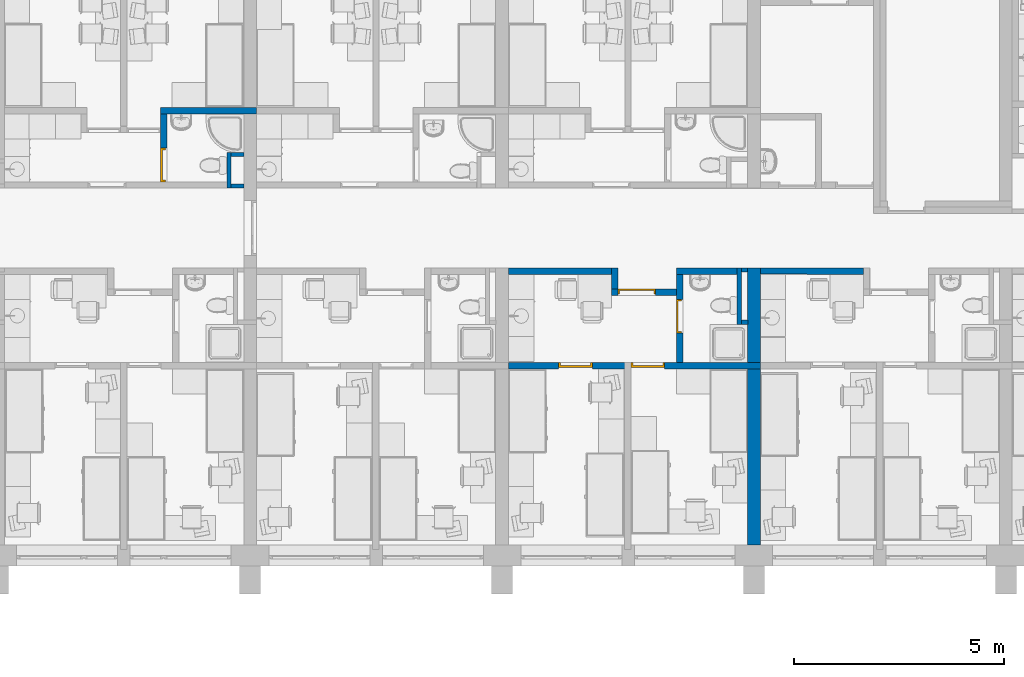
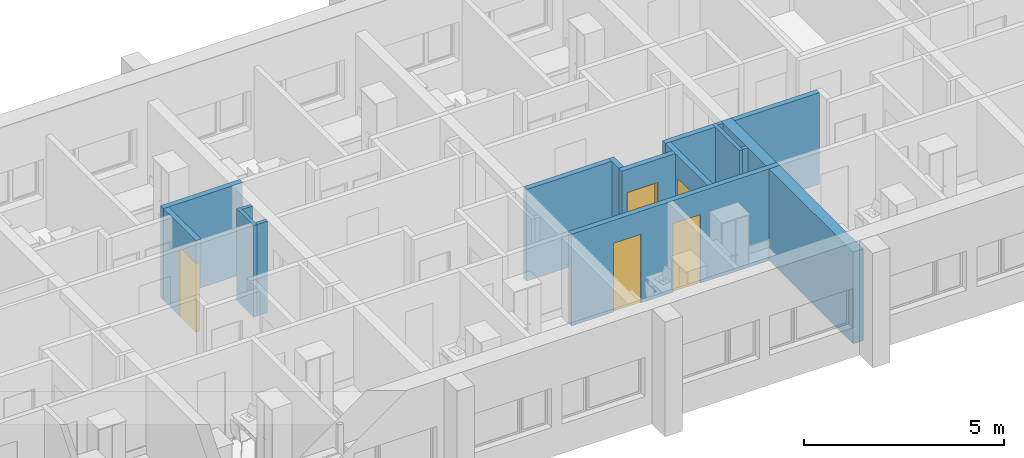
# One storey, part 7 of 152: 16 walls, 5 doors, 5 openings.
"""IFC2X3 building model written with IfcOpenShell, lengths in millimetres."""

from ifc_helpers import new_model, entity, si_unit, converted_unit, money_unit, direction, frame, origin_with_axes, place, context, subcontext, project, spatial, polyline, outline, extrude, faceted_brep, source, transform, mapped, material, material_list, layer, layer_set, layer_usage, type_object, element, fill, save


model = new_model("IFC2X3")

# Units and contexts
model_context = context("Model", 3, precision=1e-05, world=origin_with_axes(), true_north=direction((0.0, 1.0)))
body_context = subcontext(model_context, "Body", "Model", "MODEL_VIEW")
ifc_project = project(units=[si_unit("LENGTHUNIT", "METRE", prefix="MILLI"), si_unit("AREAUNIT", "SQUARE_METRE"), si_unit("VOLUMEUNIT", "CUBIC_METRE"), converted_unit("PLANEANGLEUNIT", "DEGREE", entity("IfcPlaneAngleMeasure", 0.0174532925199), si_unit("PLANEANGLEUNIT", "RADIAN"), dimensions=[0, 0, 0, 0, 0, 0, 0]), si_unit("SOLIDANGLEUNIT", "STERADIAN"), money_unit("USD"), converted_unit("TIMEUNIT", "Year", entity("IfcTimeMeasure", 31556926.0), si_unit("TIMEUNIT", "SECOND"), dimensions=[0, 0, 0, 0, 0, 0, 0]), si_unit("MASSUNIT", "GRAM"), si_unit("THERMODYNAMICTEMPERATUREUNIT", "DEGREE_CELSIUS"), si_unit("LUMINOUSINTENSITYUNIT", "LUMEN")], contexts=[model_context])

# Site, building, storey
site_placement = place(None, origin_with_axes())
site = spatial("IfcSite", under=ifc_project, at=site_placement, Name="Site", CompositionType="ELEMENT")
building_placement = place(site_placement, origin_with_axes())
building = spatial("IfcBuilding", under=site, at=building_placement, Name="Building", CompositionType="ELEMENT")
storey_placement = place(building_placement, frame((0.0, 0.0, 9500.0), z_axis=(0.0, 0.0, 1.0), x_axis=(1.0, 0.0, 0.0)))
storey = spatial("IfcBuildingStorey", under=building, at=storey_placement, Name="5KORRUS", CompositionType="ELEMENT", Elevation=9500.0)

# Wall, opening, door
ifc_material_1 = material(Name="UmbKipsplaat")
ifc_layer_1 = layer(ifc_material_1, 13.0, ventilated="UNKNOWN")
ifc_layer_2 = layer(ifc_material_1, 13.0, ventilated="UNKNOWN")
ifc_material_2 = material(Name="SOOJUSTUS MINERAALVILL")
ifc_layer_3 = layer(ifc_material_2, 98.0, ventilated="UNKNOWN")
ifc_layer_4 = layer(ifc_material_1, 13.0, ventilated="UNKNOWN")
ifc_layer_5 = layer(ifc_material_1, 13.0, ventilated="UNKNOWN")
ifc_layer_set_1 = layer_set([ifc_layer_1, ifc_layer_2, ifc_layer_3, ifc_layer_4, ifc_layer_5], Name="kipssein150")
ifc_layer_usage_1 = layer_usage(ifc_layer_set_1, "AXIS2", "POSITIVE", 0.0)
wall_type_1 = type_object("IfcWallType", Name="kipssein150 150", PredefinedType="NOTDEFINED")
wall_1_placement = place(storey_placement, frame((-38271.5850987, -9367.37850445, 0.0), z_axis=(0.0, 0.0, 1.0), x_axis=(0.0, -1.0, 0.0)))
wall_1 = element("IfcWallStandardCase", 1, at=wall_1_placement, inside=storey, type_object=wall_type_1, material=ifc_layer_usage_1, Name="SS1", ObjectType="SS1", context=body_context, shape_type="SweptSolid", body=[
    extrude(outline(polyline([(0.0, 0.0), (1619.22560435, 0.0), (1619.22560435, 150.0), (0.0, 150.0), (0.0, 0.0)])), origin_with_axes(), (0.0, 0.0, 1.0), 2800.0),
])
opening_1_placement = place(wall_1_placement, frame((1219.22560435, 0.0, 0.0), z_axis=(0.0, 0.0, 1.0), x_axis=(1.0, 0.0, 0.0)))
opening_1 = element("IfcOpeningElement", 2, at=opening_1_placement, cuts=wall_1, Name="SU3-3", context=body_context, shape_type="SweptSolid", body=[
    extrude(outline(polyline([(-400.0, -2100.0), (400.0, -2100.0), (400.0, 0.0), (-400.0, 0.0), (-400.0, -2100.0)])), frame((0.0, 150.0, 0.0), z_axis=(0.0, 1.0, 0.0), x_axis=(1.0, 0.0, 0.0)), (0.0, 0.0, -1.0), 450.0),
])
ifc_material_3 = material(Name="Background")
ifc_material_list = material_list([ifc_material_3])
door_style_1 = type_object("IfcDoorStyle", Name="Door 19", ConstructionType="NOTDEFINED", OperationType="SINGLE_SWING_LEFT", ParameterTakesPrecedence=False, Sizeable=False)
shared_shape_1 = source(origin_with_axes(), body_context, "Body", "Brep", [
    faceted_brep([(360.0, -40.0, 0.0), (360.0, -115.0, 0.0), (360.0, -115.0, 2060.0), (360.0, -40.0, 2060.0), (372.0, -40.0, 0.0), (372.0, 0.0, 0.0), (400.0, 0.0, 0.0), (400.0, -115.0, 0.0), (400.0, -115.0, 2060.0), (372.0, -40.0, 2060.0), (400.0, 0.0, 2060.0), (372.0, 0.0, 2060.0)], [[[0, 1, 2, 3]], [[4, 5, 6, 7, 1, 0]], [[2, 1, 7, 8]], [[9, 3, 2, 8, 10, 11]], [[9, 4, 0, 3]], [[11, 5, 4, 9]], [[11, 10, 6, 5]], [[7, 6, 10, 8]]]),
    faceted_brep([(-372.0, -40.0, 2060.0), (-372.0, 0.0, 2060.0), (-400.0, 0.0, 2060.0), (-400.0, -115.0, 2060.0), (-360.0, -115.0, 2060.0), (-360.0, -40.0, 2060.0), (-372.0, -40.0, 0.0), (-372.0, 0.0, 0.0), (-400.0, 0.0, 0.0), (-400.0, -115.0, 0.0), (-360.0, -115.0, 0.0), (-360.0, -40.0, 0.0)], [[[0, 1, 2, 3, 4, 5]], [[0, 6, 7, 1]], [[7, 8, 2, 1]], [[3, 2, 8, 9]], [[4, 3, 9, 10]], [[5, 4, 10, 11]], [[5, 11, 6, 0]], [[6, 11, 10, 9, 8, 7]]]),
    faceted_brep([(372.0, 0.0, 2072.0), (-372.0, 0.0, 2072.0), (-372.0, 0.0, 2060.0), (-400.0, 0.0, 2060.0), (-400.0, 0.0, 2100.0), (400.0, 0.0, 2100.0), (400.0, 0.0, 2060.0), (372.0, 0.0, 2060.0), (372.0, -40.0, 2072.0), (-372.0, -40.0, 2072.0), (-372.0, -40.0, 2060.0), (-360.0, -40.0, 2060.0), (-360.0, -115.0, 2060.0), (-400.0, -115.0, 2060.0), (-400.0, -115.0, 2100.0), (400.0, -115.0, 2100.0), (400.0, -115.0, 2060.0), (372.0, -40.0, 2060.0), (360.0, -115.0, 2060.0), (360.0, -40.0, 2060.0)], [[[0, 1, 2, 3, 4, 5, 6, 7]], [[0, 8, 9, 1]], [[1, 9, 10, 2]], [[10, 11, 12, 13, 3, 2]], [[14, 4, 3, 13]], [[15, 5, 4, 14]], [[16, 6, 5, 15]], [[17, 7, 6, 16, 18, 19]], [[7, 17, 8, 0]], [[10, 9, 8, 17, 19, 11]], [[19, 18, 12, 11]], [[13, 12, 18, 16, 15, 14]]]),
    faceted_brep([(-372.0, 0.0, 0.0), (372.0, 0.0, 0.0), (372.0, -40.0, 0.0), (-372.0, -40.0, 0.0), (-372.0, 0.0, 2072.0), (372.0, 0.0, 2072.0), (372.0, -40.0, 2072.0), (-372.0, -40.0, 2072.0)], [[[0, 1, 2, 3]], [[0, 4, 5, 1]], [[1, 5, 6, 2]], [[3, 2, 6, 7]], [[4, 0, 3, 7]], [[5, 4, 7, 6]]]),
])
door_1_placement = place(opening_1_placement, frame((400.0, 0.0, 0.0), z_axis=(0.0, 0.0, 1.0), x_axis=(-1.0, 0.0, 0.0)))
door_1 = element("IfcDoor", 3, at=door_1_placement, inside=storey, type_object=door_style_1, material=ifc_material_list, Name="SU3-3", ObjectType="WC-uks", OverallHeight=2100.0, OverallWidth=800.0, context=body_context, shape_type="MappedRepresentation", body=[
    mapped(shared_shape_1, transform((400.0, 0.0, 0.0))),
])
fill(opening_1, door_1)

# Walls
ifc_layer_usage_2 = layer_usage(ifc_layer_set_1, "AXIS2", "POSITIVE", 0.0)
wall_2_placement = place(storey_placement, frame((-38271.5850987, -9367.37850445, 0.0), z_axis=(0.0, 0.0, 1.0), x_axis=(1.0, 0.0, 0.0)))
element("IfcWallStandardCase", 4, at=wall_2_placement, inside=storey, type_object=wall_type_1, material=ifc_layer_usage_2, Name="SS1", ObjectType="SS1", context=body_context, shape_type="SweptSolid", body=[
    extrude(outline(polyline([(0.0, 0.0), (2281.28839536, 0.0), (2281.28839536, 150.0), (0.0, 150.0), (0.0, 0.0)])), origin_with_axes(), (0.0, 0.0, 1.0), 2800.0),
])
ifc_layer_usage_3 = layer_usage(ifc_layer_set_1, "AXIS2", "POSITIVE", -150.0)
wall_3_placement = place(storey_placement, frame((-25984.201689, -13039.3705726, 0.0), z_axis=(0.0, 0.0, 1.0), x_axis=(1.0, 0.0, 0.0)))
element("IfcWallStandardCase", 5, at=wall_3_placement, inside=storey, type_object=wall_type_1, material=ifc_layer_usage_3, Name="SS1", ObjectType="SS1", context=body_context, shape_type="SweptSolid", body=[
    extrude(outline(polyline([(0.0, -150.0), (1450.19338105, -150.0), (1450.19338105, 0.0), (0.0, 0.0), (0.0, -150.0)])), origin_with_axes(), (0.0, 0.0, 1.0), 2800.0),
])

# Wall, openings, doors
ifc_layer_usage_4 = layer_usage(ifc_layer_set_1, "AXIS2", "POSITIVE", -150.0)
wall_4_placement = place(storey_placement, frame((-23990.2967033, -15439.2398994, 0.0), z_axis=(0.0, 0.0, 1.0), x_axis=(-1.0, 0.0, 0.0)))
wall_4 = element("IfcWallStandardCase", 6, at=wall_4_placement, inside=storey, type_object=wall_type_1, material=ifc_layer_usage_4, Name="SS1", ObjectType="SS1", context=body_context, shape_type="SweptSolid", body=[
    extrude(outline(polyline([(0.0, -150.0), (6000.0, -150.0), (6000.0, 0.0), (0.0, 0.0), (0.0, -150.0)])), origin_with_axes(), (0.0, 0.0, 1.0), 2800.0),
])
opening_2_placement = place(wall_4_placement, frame((4400.0, 0.0, 0.0), z_axis=(0.0, 0.0, 1.0), x_axis=(1.0, 0.0, 0.0)))
opening_2 = element("IfcOpeningElement", 7, at=opening_2_placement, cuts=wall_4, Name="SU3-5", context=body_context, shape_type="SweptSolid", body=[
    extrude(outline(polyline([(-400.0, 0.0), (400.0, 0.0), (400.0, 2100.0), (-400.0, 2100.0), (-400.0, 0.0)])), frame((0.0, 150.0, 0.0), z_axis=(0.0, 1.0, 0.0), x_axis=(-1.0, 0.0, 0.0)), (0.0, 0.0, -1.0), 450.0),
])
opening_3_placement = place(wall_4_placement, frame((2675.0, 0.0, 0.0), z_axis=(0.0, 0.0, 1.0), x_axis=(1.0, 0.0, 0.0)))
opening_3 = element("IfcOpeningElement", 8, at=opening_3_placement, cuts=wall_4, Name="SU3-4", context=body_context, shape_type="SweptSolid", body=[
    extrude(outline(polyline([(-400.0, 0.0), (400.0, 0.0), (400.0, 2100.0), (-400.0, 2100.0), (-400.0, 0.0)])), frame((0.0, 150.0, 0.0), z_axis=(0.0, -1.0, 0.0), x_axis=(1.0, 0.0, 0.0)), (0.0, 0.0, 1.0), 450.0),
])
door_style_2 = type_object("IfcDoorStyle", Name="Door 19", ConstructionType="NOTDEFINED", OperationType="SINGLE_SWING_LEFT", ParameterTakesPrecedence=False, Sizeable=False)
shared_shape_2 = source(origin_with_axes(), body_context, "Body", "Brep", [
    faceted_brep([(360.0, -75.0, 0.0), (360.0, -150.0, 0.0), (360.0, -150.0, 2060.0), (360.0, -75.0, 2060.0), (372.0, -75.0, 0.0), (372.0, -35.0, 0.0), (400.0, -35.0, 0.0), (400.0, -150.0, 0.0), (400.0, -150.0, 2060.0), (372.0, -75.0, 2060.0), (400.0, -35.0, 2060.0), (372.0, -35.0, 2060.0)], [[[0, 1, 2, 3]], [[4, 5, 6, 7, 1, 0]], [[2, 1, 7, 8]], [[9, 3, 2, 8, 10, 11]], [[9, 4, 0, 3]], [[11, 5, 4, 9]], [[11, 10, 6, 5]], [[7, 6, 10, 8]]]),
    faceted_brep([(-372.0, -75.0, 2060.0), (-372.0, -35.0, 2060.0), (-400.0, -35.0, 2060.0), (-400.0, -150.0, 2060.0), (-360.0, -150.0, 2060.0), (-360.0, -75.0, 2060.0), (-372.0, -75.0, 0.0), (-372.0, -35.0, 0.0), (-400.0, -35.0, 0.0), (-400.0, -150.0, 0.0), (-360.0, -150.0, 0.0), (-360.0, -75.0, 0.0)], [[[0, 1, 2, 3, 4, 5]], [[0, 6, 7, 1]], [[7, 8, 2, 1]], [[3, 2, 8, 9]], [[4, 3, 9, 10]], [[5, 4, 10, 11]], [[5, 11, 6, 0]], [[6, 11, 10, 9, 8, 7]]]),
    faceted_brep([(372.0, -35.0, 2072.0), (-372.0, -35.0, 2072.0), (-372.0, -35.0, 2060.0), (-400.0, -35.0, 2060.0), (-400.0, -35.0, 2100.0), (400.0, -35.0, 2100.0), (400.0, -35.0, 2060.0), (372.0, -35.0, 2060.0), (372.0, -75.0, 2072.0), (-372.0, -75.0, 2072.0), (-372.0, -75.0, 2060.0), (-360.0, -75.0, 2060.0), (-360.0, -150.0, 2060.0), (-400.0, -150.0, 2060.0), (-400.0, -150.0, 2100.0), (400.0, -150.0, 2100.0), (400.0, -150.0, 2060.0), (372.0, -75.0, 2060.0), (360.0, -150.0, 2060.0), (360.0, -75.0, 2060.0)], [[[0, 1, 2, 3, 4, 5, 6, 7]], [[0, 8, 9, 1]], [[1, 9, 10, 2]], [[10, 11, 12, 13, 3, 2]], [[14, 4, 3, 13]], [[15, 5, 4, 14]], [[16, 6, 5, 15]], [[17, 7, 6, 16, 18, 19]], [[7, 17, 8, 0]], [[10, 9, 8, 17, 19, 11]], [[19, 18, 12, 11]], [[13, 12, 18, 16, 15, 14]]]),
    faceted_brep([(-372.0, -35.0, 0.0), (372.0, -35.0, 0.0), (372.0, -75.0, 0.0), (-372.0, -75.0, 0.0), (-372.0, -35.0, 2072.0), (372.0, -35.0, 2072.0), (372.0, -75.0, 2072.0), (-372.0, -75.0, 2072.0)], [[[0, 1, 2, 3]], [[0, 4, 5, 1]], [[1, 5, 6, 2]], [[3, 2, 6, 7]], [[4, 0, 3, 7]], [[5, 4, 7, 6]]]),
])
door_2_placement = place(opening_2_placement, frame((-400.0, 0.0, 0.0), z_axis=(0.0, 0.0, 1.0), x_axis=(1.0, 0.0, 0.0)))
door_2 = element("IfcDoor", 9, at=door_2_placement, inside=storey, type_object=door_style_2, material=ifc_material_list, Name="SU3-5", ObjectType="Toa uks", OverallHeight=2100.0, OverallWidth=800.0, context=body_context, shape_type="MappedRepresentation", body=[
    mapped(shared_shape_2, transform((400.0, 0.0, 0.0))),
])
fill(opening_2, door_2)
door_style_3 = type_object("IfcDoorStyle", Name="Door 19", ConstructionType="NOTDEFINED", OperationType="SINGLE_SWING_RIGHT", ParameterTakesPrecedence=False, Sizeable=False)
shared_shape_3 = source(origin_with_axes(), body_context, "Body", "Brep", [
    faceted_brep([(-360.0, -75.0, 0.0), (-360.0, -75.0, 2060.0), (-360.0, -150.0, 2060.0), (-360.0, -150.0, 0.0), (-372.0, -75.0, 2060.0), (-372.0, -75.0, 0.0), (-372.0, -35.0, 2060.0), (-400.0, -35.0, 2060.0), (-400.0, -150.0, 2060.0), (-400.0, -150.0, 0.0), (-400.0, -35.0, 0.0), (-372.0, -35.0, 0.0)], [[[0, 1, 2, 3]], [[4, 1, 0, 5]], [[4, 6, 7, 8, 2, 1]], [[2, 8, 9, 3]], [[5, 0, 3, 9, 10, 11]], [[6, 4, 5, 11]], [[6, 11, 10, 7]], [[9, 8, 7, 10]]]),
    faceted_brep([(372.0, -75.0, 2060.0), (360.0, -75.0, 2060.0), (360.0, -150.0, 2060.0), (400.0, -150.0, 2060.0), (400.0, -35.0, 2060.0), (372.0, -35.0, 2060.0), (372.0, -75.0, 0.0), (360.0, -75.0, 0.0), (360.0, -150.0, 0.0), (400.0, -150.0, 0.0), (400.0, -35.0, 0.0), (372.0, -35.0, 0.0)], [[[0, 1, 2, 3, 4, 5]], [[1, 0, 6, 7]], [[1, 7, 8, 2]], [[2, 8, 9, 3]], [[3, 9, 10, 4]], [[11, 5, 4, 10]], [[0, 5, 11, 6]], [[6, 11, 10, 9, 8, 7]]]),
    faceted_brep([(-372.0, -35.0, 2072.0), (-372.0, -35.0, 2060.0), (-400.0, -35.0, 2060.0), (-400.0, -35.0, 2100.0), (400.0, -35.0, 2100.0), (400.0, -35.0, 2060.0), (372.0, -35.0, 2060.0), (372.0, -35.0, 2072.0), (-372.0, -75.0, 2072.0), (-372.0, -75.0, 2060.0), (-360.0, -75.0, 2060.0), (-360.0, -150.0, 2060.0), (-400.0, -150.0, 2060.0), (-400.0, -150.0, 2100.0), (400.0, -150.0, 2100.0), (400.0, -150.0, 2060.0), (372.0, -75.0, 2060.0), (360.0, -150.0, 2060.0), (360.0, -75.0, 2060.0), (372.0, -75.0, 2072.0)], [[[0, 1, 2, 3, 4, 5, 6, 7]], [[1, 0, 8, 9]], [[9, 10, 11, 12, 2, 1]], [[12, 13, 3, 2]], [[13, 14, 4, 3]], [[14, 15, 5, 4]], [[16, 6, 5, 15, 17, 18]], [[7, 6, 16, 19]], [[0, 7, 19, 8]], [[16, 18, 10, 9, 8, 19]], [[10, 18, 17, 11]], [[15, 14, 13, 12, 11, 17]]]),
    faceted_brep([(372.0, -35.0, 0.0), (372.0, -75.0, 0.0), (-372.0, -75.0, 0.0), (-372.0, -35.0, 0.0), (372.0, -35.0, 2072.0), (372.0, -75.0, 2072.0), (-372.0, -75.0, 2072.0), (-372.0, -35.0, 2072.0)], [[[0, 1, 2, 3]], [[4, 5, 1, 0]], [[1, 5, 6, 2]], [[3, 2, 6, 7]], [[0, 3, 7, 4]], [[7, 6, 5, 4]]]),
])
door_3_placement = place(opening_3_placement, frame((-400.0, 0.0, 0.0), z_axis=(0.0, 0.0, 1.0), x_axis=(1.0, 0.0, 0.0)))
door_3 = element("IfcDoor", 10, at=door_3_placement, inside=storey, type_object=door_style_3, material=ifc_material_list, Name="SU3-4", ObjectType="Toa uks", OverallHeight=2100.0, OverallWidth=800.0, context=body_context, shape_type="MappedRepresentation", body=[
    mapped(shared_shape_3, transform((400.0, 0.0, 0.0))),
])
fill(opening_3, door_3)

# Wall, opening, door
ifc_layer_usage_5 = layer_usage(ifc_layer_set_1, "AXIS2", "POSITIVE", -150.0)
wall_5_placement = place(storey_placement, frame((-25984.201689, -15286.1174598, 0.0), z_axis=(0.0, 0.0, 1.0), x_axis=(0.0, 1.0, 0.0)))
wall_5 = element("IfcWallStandardCase", 11, at=wall_5_placement, inside=storey, type_object=wall_type_1, material=ifc_layer_usage_5, Name="SS1", ObjectType="SS1", context=body_context, shape_type="SweptSolid", body=[
    extrude(outline(polyline([(0.0, -150.0), (2246.74688721, -150.0), (2246.74688721, 0.0), (0.0, 0.0), (0.0, -150.0)])), origin_with_axes(), (0.0, 0.0, 1.0), 2800.0),
])
opening_4_placement = place(wall_5_placement, frame((1096.66505151, 0.0, 0.0), z_axis=(0.0, 0.0, 1.0), x_axis=(1.0, 0.0, 0.0)))
opening_4 = element("IfcOpeningElement", 12, at=opening_4_placement, cuts=wall_5, Name="SU3-2", context=body_context, shape_type="SweptSolid", body=[
    extrude(outline(polyline([(-400.0, -2100.0), (400.0, -2100.0), (400.0, 0.0), (-400.0, 0.0), (-400.0, -2100.0)])), frame((0.0, -150.0, 0.0), z_axis=(0.0, 1.0, 0.0), x_axis=(1.0, 0.0, 0.0)), (0.0, 0.0, 1.0), 450.0),
])
door_style_4 = type_object("IfcDoorStyle", Name="Door 19", ConstructionType="NOTDEFINED", OperationType="SINGLE_SWING_RIGHT", ParameterTakesPrecedence=False, Sizeable=False)
shared_shape_4 = source(origin_with_axes(), body_context, "Body", "Brep", [
    faceted_brep([(-360.0, -40.0, 0.0), (-360.0, -40.0, 2060.0), (-360.0, -115.0, 2060.0), (-360.0, -115.0, 0.0), (-372.0, -40.0, 2060.0), (-372.0, -40.0, 0.0), (-372.0, 0.0, 2060.0), (-400.0, 0.0, 2060.0), (-400.0, -115.0, 2060.0), (-400.0, -115.0, 0.0), (-400.0, 0.0, 0.0), (-372.0, 0.0, 0.0)], [[[0, 1, 2, 3]], [[4, 1, 0, 5]], [[4, 6, 7, 8, 2, 1]], [[2, 8, 9, 3]], [[5, 0, 3, 9, 10, 11]], [[6, 4, 5, 11]], [[6, 11, 10, 7]], [[9, 8, 7, 10]]]),
    faceted_brep([(372.0, -40.0, 2060.0), (360.0, -40.0, 2060.0), (360.0, -115.0, 2060.0), (400.0, -115.0, 2060.0), (400.0, 0.0, 2060.0), (372.0, 0.0, 2060.0), (372.0, -40.0, 0.0), (360.0, -40.0, 0.0), (360.0, -115.0, 0.0), (400.0, -115.0, 0.0), (400.0, 0.0, 0.0), (372.0, 0.0, 0.0)], [[[0, 1, 2, 3, 4, 5]], [[1, 0, 6, 7]], [[1, 7, 8, 2]], [[2, 8, 9, 3]], [[3, 9, 10, 4]], [[11, 5, 4, 10]], [[0, 5, 11, 6]], [[6, 11, 10, 9, 8, 7]]]),
    faceted_brep([(-372.0, 0.0, 2072.0), (-372.0, 0.0, 2060.0), (-400.0, 0.0, 2060.0), (-400.0, 0.0, 2100.0), (400.0, 0.0, 2100.0), (400.0, 0.0, 2060.0), (372.0, 0.0, 2060.0), (372.0, 0.0, 2072.0), (-372.0, -40.0, 2072.0), (-372.0, -40.0, 2060.0), (-360.0, -40.0, 2060.0), (-360.0, -115.0, 2060.0), (-400.0, -115.0, 2060.0), (-400.0, -115.0, 2100.0), (400.0, -115.0, 2100.0), (400.0, -115.0, 2060.0), (372.0, -40.0, 2060.0), (360.0, -115.0, 2060.0), (360.0, -40.0, 2060.0), (372.0, -40.0, 2072.0)], [[[0, 1, 2, 3, 4, 5, 6, 7]], [[1, 0, 8, 9]], [[9, 10, 11, 12, 2, 1]], [[12, 13, 3, 2]], [[13, 14, 4, 3]], [[14, 15, 5, 4]], [[16, 6, 5, 15, 17, 18]], [[7, 6, 16, 19]], [[0, 7, 19, 8]], [[16, 18, 10, 9, 8, 19]], [[10, 18, 17, 11]], [[15, 14, 13, 12, 11, 17]]]),
    faceted_brep([(372.0, 0.0, 0.0), (372.0, -40.0, 0.0), (-372.0, -40.0, 0.0), (-372.0, 0.0, 0.0), (372.0, 0.0, 2072.0), (372.0, -40.0, 2072.0), (-372.0, -40.0, 2072.0), (-372.0, 0.0, 2072.0)], [[[0, 1, 2, 3]], [[4, 5, 1, 0]], [[1, 5, 6, 2]], [[3, 2, 6, 7]], [[0, 3, 7, 4]], [[7, 6, 5, 4]]]),
])
door_4_placement = place(opening_4_placement, frame((-400.0, 0.0, 0.0), z_axis=(0.0, 0.0, 1.0), x_axis=(1.0, 0.0, 0.0)))
door_4 = element("IfcDoor", 13, at=door_4_placement, inside=storey, type_object=door_style_4, material=ifc_material_list, Name="SU3-2", ObjectType="WC-uks", OverallHeight=2100.0, OverallWidth=800.0, context=body_context, shape_type="MappedRepresentation", body=[
    mapped(shared_shape_4, transform((400.0, 0.0, 0.0))),
])
fill(opening_4, door_4)

ifc_layer_usage_6 = layer_usage(ifc_layer_set_1, "AXIS2", "POSITIVE", 0.0)
wall_6_placement = place(storey_placement, frame((-25984.201689, -13539.4524083, 0.0), z_axis=(0.0, 0.0, 1.0), x_axis=(-1.0, 0.0, 0.0)))
wall_6 = element("IfcWallStandardCase", 14, at=wall_6_placement, inside=storey, type_object=wall_type_1, material=ifc_layer_usage_6, Name="SS1", ObjectType="SS1", context=body_context, shape_type="SweptSolid", body=[
    extrude(outline(polyline([(0.0, 0.0), (1549.66067938, 0.0), (1549.66067938, 150.0), (0.0, 150.0), (0.0, 0.0)])), origin_with_axes(), (0.0, 0.0, 1.0), 2800.0),
])
opening_5_placement = place(wall_6_placement, frame((949.660679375, 0.0, 0.0), z_axis=(0.0, 0.0, 1.0), x_axis=(1.0, 0.0, 0.0)))
opening_5 = element("IfcOpeningElement", 15, at=opening_5_placement, cuts=wall_6, Name="SU2-6", context=body_context, shape_type="SweptSolid", body=[
    extrude(outline(polyline([(-450.0, -2100.0), (450.0, -2100.0), (450.0, 0.0), (-450.0, 0.0), (-450.0, -2100.0)])), frame((0.0, 150.0, 0.0), z_axis=(0.0, 1.0, 0.0), x_axis=(1.0, 0.0, 0.0)), (0.0, 0.0, -1.0), 450.0),
])
shared_shape_5 = source(origin_with_axes(), body_context, "Body", "Brep", [
    faceted_brep([(410.0, -40.0, 0.0), (410.0, -115.0, 0.0), (410.0, -115.0, 2060.0), (410.0, -40.0, 2060.0), (422.0, -40.0, 0.0), (422.0, 0.0, 0.0), (450.0, 0.0, 0.0), (450.0, -115.0, 0.0), (450.0, -115.0, 2060.0), (422.0, -40.0, 2060.0), (450.0, 0.0, 2060.0), (422.0, 0.0, 2060.0)], [[[0, 1, 2, 3]], [[4, 5, 6, 7, 1, 0]], [[2, 1, 7, 8]], [[9, 3, 2, 8, 10, 11]], [[9, 4, 0, 3]], [[11, 5, 4, 9]], [[11, 10, 6, 5]], [[7, 6, 10, 8]]]),
    faceted_brep([(-422.0, -40.0, 2060.0), (-422.0, 0.0, 2060.0), (-450.0, 0.0, 2060.0), (-450.0, -115.0, 2060.0), (-410.0, -115.0, 2060.0), (-410.0, -40.0, 2060.0), (-422.0, -40.0, 0.0), (-422.0, 0.0, 0.0), (-450.0, 0.0, 0.0), (-450.0, -115.0, 0.0), (-410.0, -115.0, 0.0), (-410.0, -40.0, 0.0)], [[[0, 1, 2, 3, 4, 5]], [[0, 6, 7, 1]], [[7, 8, 2, 1]], [[3, 2, 8, 9]], [[4, 3, 9, 10]], [[5, 4, 10, 11]], [[5, 11, 6, 0]], [[6, 11, 10, 9, 8, 7]]]),
    faceted_brep([(422.0, 0.0, 2072.0), (-422.0, 0.0, 2072.0), (-422.0, 0.0, 2060.0), (-450.0, 0.0, 2060.0), (-450.0, 0.0, 2100.0), (450.0, 0.0, 2100.0), (450.0, 0.0, 2060.0), (422.0, 0.0, 2060.0), (422.0, -40.0, 2072.0), (-422.0, -40.0, 2072.0), (-422.0, -40.0, 2060.0), (-410.0, -40.0, 2060.0), (-410.0, -115.0, 2060.0), (-450.0, -115.0, 2060.0), (-450.0, -115.0, 2100.0), (450.0, -115.0, 2100.0), (450.0, -115.0, 2060.0), (422.0, -40.0, 2060.0), (410.0, -115.0, 2060.0), (410.0, -40.0, 2060.0)], [[[0, 1, 2, 3, 4, 5, 6, 7]], [[0, 8, 9, 1]], [[1, 9, 10, 2]], [[10, 11, 12, 13, 3, 2]], [[14, 4, 3, 13]], [[15, 5, 4, 14]], [[16, 6, 5, 15]], [[17, 7, 6, 16, 18, 19]], [[7, 17, 8, 0]], [[10, 9, 8, 17, 19, 11]], [[19, 18, 12, 11]], [[13, 12, 18, 16, 15, 14]]]),
    faceted_brep([(-422.0, 0.0, 0.0), (422.0, 0.0, 0.0), (422.0, -40.0, 0.0), (-422.0, -40.0, 0.0), (-422.0, 0.0, 2072.0), (422.0, 0.0, 2072.0), (422.0, -40.0, 2072.0), (-422.0, -40.0, 2072.0)], [[[0, 1, 2, 3]], [[0, 4, 5, 1]], [[1, 5, 6, 2]], [[3, 2, 6, 7]], [[4, 0, 3, 7]], [[5, 4, 7, 6]]]),
])
door_5_placement = place(opening_5_placement, frame((450.0, 0.0, 0.0), z_axis=(0.0, 0.0, 1.0), x_axis=(-1.0, 0.0, 0.0)))
door_5 = element("IfcDoor", 16, at=door_5_placement, inside=storey, type_object=door_style_1, material=ifc_material_list, Name="SU2-6", ObjectType="Korteri välisuks", OverallHeight=2100.0, OverallWidth=900.0, context=body_context, shape_type="MappedRepresentation", body=[
    mapped(shared_shape_5, transform((450.0, 0.0, 0.0))),
])
fill(opening_5, door_5)

# Walls
ifc_layer_usage_7 = layer_usage(ifc_layer_set_1, "AXIS2", "POSITIVE", 0.0)
wall_7_placement = place(storey_placement, frame((-27533.8623684, -13039.2398994, 0.0), z_axis=(0.0, 0.0, 1.0), x_axis=(0.0, -1.0, 0.0)))
element("IfcWallStandardCase", 17, at=wall_7_placement, inside=storey, type_object=wall_type_1, material=ifc_layer_usage_7, Name="SS1", ObjectType="SS1", context=body_context, shape_type="SweptSolid", body=[
    extrude(outline(polyline([(0.0, 0.0), (500.212508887, 0.0), (500.212508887, 150.0), (0.0, 150.0), (0.0, 0.0)])), origin_with_axes(), (0.0, 0.0, 1.0), 2800.0),
])
ifc_layer_usage_8 = layer_usage(ifc_layer_set_1, "AXIS2", "POSITIVE", 0.0)
wall_8_placement = place(storey_placement, frame((-27533.8623684, -13039.2398994, 0.0), z_axis=(0.0, 0.0, 1.0), x_axis=(-1.0, 0.0, 0.0)))
element("IfcWallStandardCase", 18, at=wall_8_placement, inside=storey, type_object=wall_type_1, material=ifc_layer_usage_8, Name="SS1", ObjectType="SS1", context=body_context, shape_type="SweptSolid", body=[
    extrude(outline(polyline([(0.0, 0.0), (2456.43433493, 0.0), (2456.43433493, 150.0), (0.0, 150.0), (0.0, 0.0)])), origin_with_axes(), (0.0, 0.0, 1.0), 2800.0),
])
ifc_layer_usage_9 = layer_usage(ifc_layer_set_1, "AXIS2", "POSITIVE", 0.0)
wall_9_placement = place(storey_placement, frame((-21533.8623684, -13039.2398994, 0.0), z_axis=(0.0, 0.0, 1.0), x_axis=(-0.999999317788, 0.00116808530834, 0.0)))
element("IfcWallStandardCase", 19, at=wall_9_placement, inside=storey, type_object=wall_type_1, material=ifc_layer_usage_9, Name="SS1", ObjectType="SS1", context=body_context, shape_type="SweptSolid", body=[
    extrude(outline(polyline([(0.0, 0.0), (2456.43601074, 0.0), (2456.43601074, 150.0), (0.0, 150.0), (0.0, 0.0)])), origin_with_axes(), (0.0, 0.0, 1.0), 2800.0),
])
ifc_material_4 = material(Name="Olemasolevad seinad tellis, uus viimistlus")
ifc_layer_6 = layer(ifc_material_4, 300.0, ventilated="UNKNOWN")
ifc_layer_set_2 = layer_set([ifc_layer_6], Name="Olemasolevad seinad tellis, uus viimistlus  300")
ifc_layer_usage_10 = layer_usage(ifc_layer_set_2, "AXIS2", "POSITIVE", 0.0)
wall_type_2 = type_object("IfcWallType", Name="Olemasolevad seinad tellis, uus viimistlus  300", PredefinedType="NOTDEFINED")
wall_10_placement = place(storey_placement, frame((-23990.2967033, -19639.2398994, 0.0), z_axis=(0.0, 0.0, 1.0), x_axis=(0.0, 1.0, 0.0)))
element("IfcWallStandardCase", 20, at=wall_10_placement, inside=storey, type_object=wall_type_2, material=ifc_layer_usage_10, Name="KS1", ObjectType="KS1", context=body_context, shape_type="SweptSolid", body=[
    extrude(outline(polyline([(0.0, 0.0), (6602.86932682, 0.0), (6602.86932682, 300.0), (0.0, 300.0), (0.0, 0.0)])), origin_with_axes(), (0.0, 0.0, 1.0), 2800.0),
])
ifc_material_5 = material(Name="krohv")
ifc_layer_7 = layer(ifc_material_5, 2.0, ventilated="UNKNOWN")
ifc_layer_8 = layer(ifc_material_5, 10.0, ventilated="UNKNOWN")
ifc_material_6 = material(Name="Kergplokk")
ifc_layer_9 = layer(ifc_material_6, 76.0, ventilated="UNKNOWN")
ifc_layer_10 = layer(ifc_material_5, 10.0, ventilated="UNKNOWN")
ifc_layer_11 = layer(ifc_material_5, 2.0, ventilated="UNKNOWN")
ifc_layer_set_3 = layer_set([ifc_layer_7, ifc_layer_8, ifc_layer_9, ifc_layer_10, ifc_layer_11], Name="Kergplokk Bauroc 100")
ifc_layer_usage_11 = layer_usage(ifc_layer_set_3, "AXIS2", "POSITIVE", 0.0)
wall_type_3 = type_object("IfcWallType", Name="Kergplokk Bauroc 100 100", PredefinedType="NOTDEFINED")
wall_11_placement = place(storey_placement, frame((-36590.008308, -11136.6041088, 0.0), z_axis=(0.0, 0.0, 1.0), x_axis=(0.0, 1.0, 0.0)))
element("IfcWallStandardCase", 21, at=wall_11_placement, inside=storey, type_object=wall_type_3, material=ifc_layer_usage_11, Name="SS2", ObjectType="SS2", context=body_context, shape_type="SweptSolid", body=[
    extrude(outline(polyline([(0.0, 0.0), (849.225604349, 0.0), (849.225604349, 100.0), (0.0, 100.0), (0.0, 0.0)])), origin_with_axes(), (0.0, 0.0, 1.0), 2800.0),
])
ifc_layer_usage_12 = layer_usage(ifc_layer_set_3, "AXIS2", "POSITIVE", 0.0)
wall_12_placement = place(storey_placement, frame((-36590.008308, -11136.6041088, 0.0), z_axis=(0.0, 0.0, 1.0), x_axis=(1.0, 0.0, 0.0)))
element("IfcWallStandardCase", 22, at=wall_12_placement, inside=storey, type_object=wall_type_3, material=ifc_layer_usage_12, Name="SS2", ObjectType="SS2", context=body_context, shape_type="SweptSolid", body=[
    extrude(outline(polyline([(0.0, 0.0), (299.711604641, 0.0), (299.711604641, 100.0), (0.0, 100.0), (0.0, 0.0)])), origin_with_axes(), (0.0, 0.0, 1.0), 2800.0),
])
ifc_layer_usage_13 = layer_usage(ifc_layer_set_3, "AXIS2", "POSITIVE", -100.0)
wall_13_placement = place(storey_placement, frame((-24284.008308, -14380.4716262, 0.0), z_axis=(0.0, 0.0, 1.0), x_axis=(-1.0, 0.0, 0.0)))
element("IfcWallStandardCase", 23, at=wall_13_placement, inside=storey, type_object=wall_type_3, material=ifc_layer_usage_13, Name="SS2", ObjectType="SS2", context=body_context, shape_type="SweptSolid", body=[
    extrude(outline(polyline([(0.0, -100.0), (156.0, -100.0), (156.0, 0.0), (0.0, 0.0), (0.0, -100.0)])), origin_with_axes(), (0.0, 0.0, 1.0), 2800.0),
])
ifc_layer_usage_14 = layer_usage(ifc_layer_set_3, "AXIS2", "POSITIVE", -100.0)
wall_14_placement = place(storey_placement, frame((-24440.008308, -13039.3705726, 0.0), z_axis=(0.0, 0.0, 1.0), x_axis=(0.0, -1.0, 0.0)))
element("IfcWallStandardCase", 24, at=wall_14_placement, inside=storey, type_object=wall_type_3, material=ifc_layer_usage_14, Name="SS2", ObjectType="SS2", context=body_context, shape_type="SweptSolid", body=[
    extrude(outline(polyline([(0.0, -100.0), (1341.10105359, -100.0), (1341.10105359, 0.0), (0.0, 0.0), (0.0, -100.0)])), origin_with_axes(), (0.0, 0.0, 1.0), 2800.0),
])
ifc_layer_usage_15 = layer_usage(ifc_layer_set_3, "AXIS2", "POSITIVE", -100.0)
wall_15_placement = place(storey_placement, frame((-24440.008308, -13039.3705726, 0.0), z_axis=(0.0, 0.0, 1.0), x_axis=(1.0, 0.0, 0.0)))
element("IfcWallStandardCase", 25, at=wall_15_placement, inside=storey, type_object=wall_type_3, material=ifc_layer_usage_15, Name="SS2", ObjectType="SS2", context=body_context, shape_type="SweptSolid", body=[
    extrude(outline(polyline([(0.0, -100.0), (149.711604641, -100.0), (149.711604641, 0.0), (0.0, 0.0), (0.0, -100.0)])), origin_with_axes(), (0.0, 0.0, 1.0), 2800.0),
])
ifc_layer_usage_16 = layer_usage(ifc_layer_set_3, "AXIS2", "POSITIVE", 0.0)
wall_16_placement = place(storey_placement, frame((-36290.2967033, -10287.3785045, 0.0), z_axis=(0.0, 0.0, 1.0), x_axis=(-1.0, 0.0, 0.0)))
element("IfcWallStandardCase", 26, at=wall_16_placement, inside=storey, type_object=wall_type_3, material=ifc_layer_usage_16, Name="SS2", ObjectType="SS2", context=body_context, shape_type="SweptSolid", body=[
    extrude(outline(polyline([(0.0, 0.0), (299.711604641, 0.0), (299.711604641, 100.0), (0.0, 100.0), (0.0, 0.0)])), origin_with_axes(), (0.0, 0.0, 1.0), 2800.0),
])

save(model, "model.ifc")
